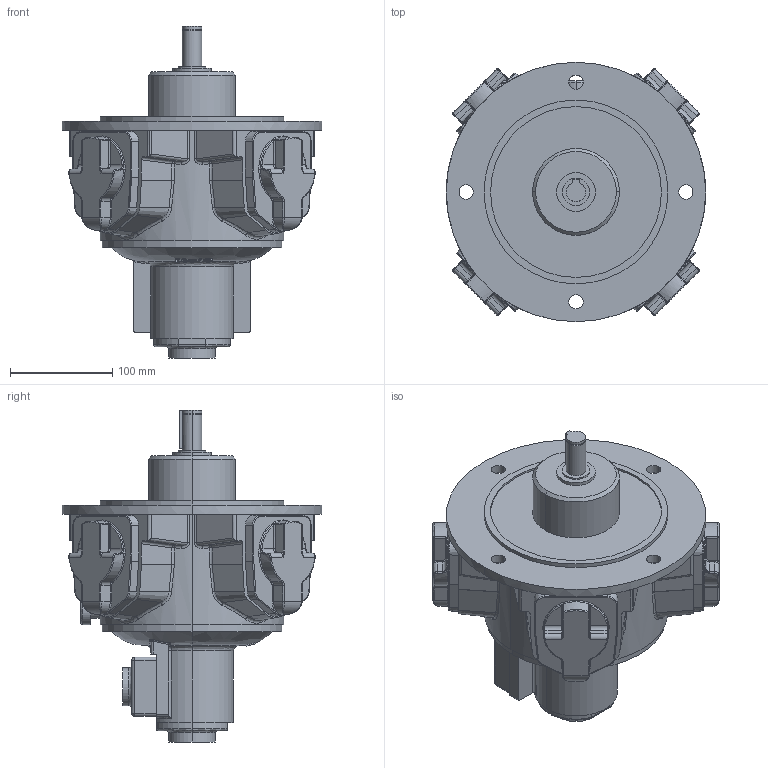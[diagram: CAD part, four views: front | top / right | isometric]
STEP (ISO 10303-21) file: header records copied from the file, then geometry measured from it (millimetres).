
FILE_DESCRIPTION (( 'STEP AP203' ), '1' );
FILE_NAME ('RM210 motor.STEP', '2022-12-01T20:12:09', ( 'Brook' ), ( 'HP' ), 'SwSTEP 2.0', 'SolidWorks 2008', '' );
FILE_SCHEMA (( 'CONFIG_CONTROL_DESIGN' ));
Length unit declared in the file: inch
Products named in the file (1): RM210 motor
Bounding box: 254 x 254 x 325 mm (x, y, z)
Volume: 6109572.3 mm3; surface area: 286174.1 mm2
Topology: 1 solids, 1 shells, 799 faces, 1952 edges, 1157 vertices
Faces by surface type: cylinder 288, bspline 270, plane 201, cone 40
Entity records: 101043 total; most frequent: CARTESIAN_POINT 84463, ORIENTED_EDGE 3852, DIRECTION 2870, EDGE_CURVE 1926, VERTEX_POINT 1157, AXIS2_PLACEMENT_3D 1070, EDGE_LOOP 835, ADVANCED_FACE 799
